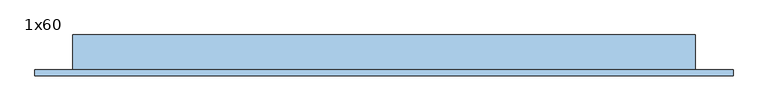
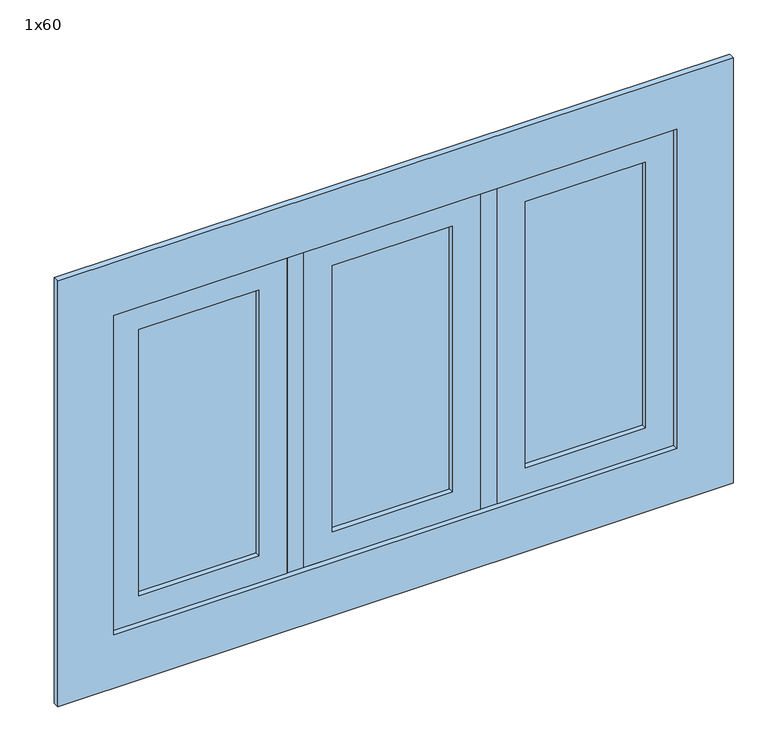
"""IFC4 building model written with IfcOpenShell, lengths in millimetres: window geometry, JANELA COM ESQUADRIA MAXIM-AR - 3 FOLHAS : 1x60."""

from ifc_helpers import new_model, si_unit, frame, origin, place, context, project, spatial, polyline, outline, extrude, source, transform, mapped, element, save


def window_1x60_2e2a47e2(model_context):
    return source(origin(), model_context, "Body", "SweptSolid", [
        extrude(outline(polyline([(22.7368843, -30.3758395), (236.0702176, -30.3758395), (236.0702176, -36.3758395), (22.7368843, -36.3758395), (22.7368843, -30.3758395)])), frame((0.0, 0.0, 1550.0), z_axis=(0.0, 0.0, 1.0), x_axis=(1.0, 0.0, 0.0)), (0.0, 0.0, 1.0), 500.0),
        extrude(outline(polyline([(2100.0, -27.2631157), (1500.0, -27.2631157), (1500.0, 286.0702176), (2100.0, 286.0702176), (2100.0, -27.2631157)]), holes=[polyline([(2050.0, 22.7368843), (2050.0, 236.0702176), (1550.0, 236.0702176), (1550.0, 22.7368843), (2050.0, 22.7368843)])]), frame((0.0, -45.8758395, 0.0), z_axis=(0.0, 1.0, 0.0), x_axis=(0.0, 0.0, 1.0)), (0.0, 0.0, 1.0), 25.0),
        extrude(outline(polyline([(366.0702176, -30.3758395), (579.4035509, -30.3758395), (579.4035509, -36.3758395), (366.0702176, -36.3758395), (366.0702176, -30.3758395)])), frame((0.0, 0.0, 1550.0), z_axis=(0.0, 0.0, 1.0), x_axis=(1.0, 0.0, 0.0)), (0.0, 0.0, 1.0), 500.0),
        extrude(outline(polyline([(2100.0, 316.0702176), (1500.0, 316.0702176), (1500.0, 629.4035509), (2100.0, 629.4035509), (2100.0, 316.0702176)]), holes=[polyline([(2050.0, 366.0702176), (2050.0, 579.4035509), (1550.0, 579.4035509), (1550.0, 366.0702176), (2050.0, 366.0702176)])]), frame((0.0, -45.8758395, 0.0), z_axis=(0.0, 1.0, 0.0), x_axis=(0.0, 0.0, 1.0)), (0.0, 0.0, 1.0), 25.0),
        extrude(outline(polyline([(-320.5964491, -30.3758395), (-107.2631157, -30.3758395), (-107.2631157, -36.3758395), (-320.5964491, -36.3758395), (-320.5964491, -30.3758395)])), frame((0.0, 0.0, 1550.0), z_axis=(0.0, 0.0, 1.0), x_axis=(1.0, 0.0, 0.0)), (0.0, 0.0, 1.0), 500.0),
        extrude(outline(polyline([(2100.0, -370.5964491), (1500.0, -370.5964491), (1500.0, -57.2631157), (2100.0, -57.2631157), (2100.0, -370.5964491)]), holes=[polyline([(2050.0, -320.5964491), (2050.0, -107.2631157), (1550.0, -107.2631157), (1550.0, -320.5964491), (2050.0, -320.5964491)])]), frame((0.0, -45.8758395, 0.0), z_axis=(0.0, 1.0, 0.0), x_axis=(0.0, 0.0, 1.0)), (0.0, 0.0, 1.0), 25.0),
        extrude(outline(polyline([(1400.0, -470.5964491), (1400.0, 729.4035509), (2200.0, 729.4035509), (2200.0, -470.5964491), (1400.0, -470.5964491)]), holes=[polyline([(2100.0, -370.5964491), (2100.0, 629.4035509), (1500.0, 629.4035509), (1500.0, -370.5964491), (2100.0, -370.5964491)])]), frame((0.0, -55.8758395, 0.0), z_axis=(0.0, 1.0, 0.0), x_axis=(0.0, 0.0, 1.0)), (0.0, 0.0, 1.0), 10.0),
        extrude(outline(polyline([(286.0702176, -45.8758395), (286.0702176, 14.1241605), (316.0702176, 14.1241605), (316.0702176, -45.8758395), (286.0702176, -45.8758395)])), frame((0.0, 0.0, 1500.0), z_axis=(0.0, 0.0, 1.0), x_axis=(1.0, 0.0, 0.0)), (0.0, 0.0, 1.0), 600.0),
        extrude(outline(polyline([(-57.2631157, -45.8758395), (-57.2631157, 14.1241605), (-27.2631157, 14.1241605), (-27.2631157, -45.8758395), (-57.2631157, -45.8758395)])), frame((0.0, 0.0, 1500.0), z_axis=(0.0, 0.0, 1.0), x_axis=(1.0, 0.0, 0.0)), (0.0, 0.0, 1.0), 600.0),
        extrude(outline(polyline([(-405.5964491, 14.1241605), (-370.5964491, 14.1241605), (-370.5964491, -45.8758395), (-405.5964491, -45.8758395), (-405.5964491, 14.1241605)])), frame((0.0, 0.0, 1500.0), z_axis=(0.0, 0.0, 1.0), x_axis=(1.0, 0.0, 0.0)), (0.0, 0.0, 1.0), 600.0),
        extrude(outline(polyline([(629.4035509, 14.1241605), (664.4035509, 14.1241605), (664.4035509, -45.8758395), (629.4035509, -45.8758395), (629.4035509, 14.1241605)])), frame((0.0, 0.0, 1500.0), z_axis=(0.0, 0.0, 1.0), x_axis=(1.0, 0.0, 0.0)), (0.0, 0.0, 1.0), 600.0),
        extrude(outline(polyline([(-405.5964491, 14.1241605), (664.4035509, 14.1241605), (664.4035509, -45.8758395), (-405.5964491, -45.8758395), (-405.5964491, 14.1241605)])), frame((0.0, 0.0, 1465.0), z_axis=(0.0, 0.0, 1.0), x_axis=(1.0, 0.0, 0.0)), (0.0, 0.0, 1.0), 35.0),
        extrude(outline(polyline([(-405.5964491, 14.1241605), (664.4035509, 14.1241605), (664.4035509, -45.8758395), (-405.5964491, -45.8758395), (-405.5964491, 14.1241605)])), frame((0.0, 0.0, 2100.0), z_axis=(0.0, 0.0, 1.0), x_axis=(1.0, 0.0, 0.0)), (0.0, 0.0, 1.0), 35.0),
    ])


if __name__ == "__main__":
    model = new_model("IFC4")
    model_context = context("Model", 3, world=origin())
    ifc_project = project(units=[si_unit("LENGTHUNIT", "METRE", prefix="MILLI")], contexts=[model_context])
    site = spatial("IfcSite", under=ifc_project)
    building = spatial("IfcBuilding", under=site)
    placement = place(None, origin())
    window_1x60_shape = window_1x60_2e2a47e2(model_context)
    element("IfcWindow", 1, ObjectType="JANELA COM ESQUADRIA MAXIM-AR - 3 FOLHAS : 1x60", at=placement, inside=building, context=model_context, shape_type="MappedRepresentation", body=[
        mapped(window_1x60_shape, transform((0.0, 0.0, 0.0), x_axis=(1.0, 0.0, 0.0), y_axis=(0.0, 1.0, 0.0), z_axis=(0.0, 0.0, 1.0))),
    ])
    save(model, "model.ifc")
